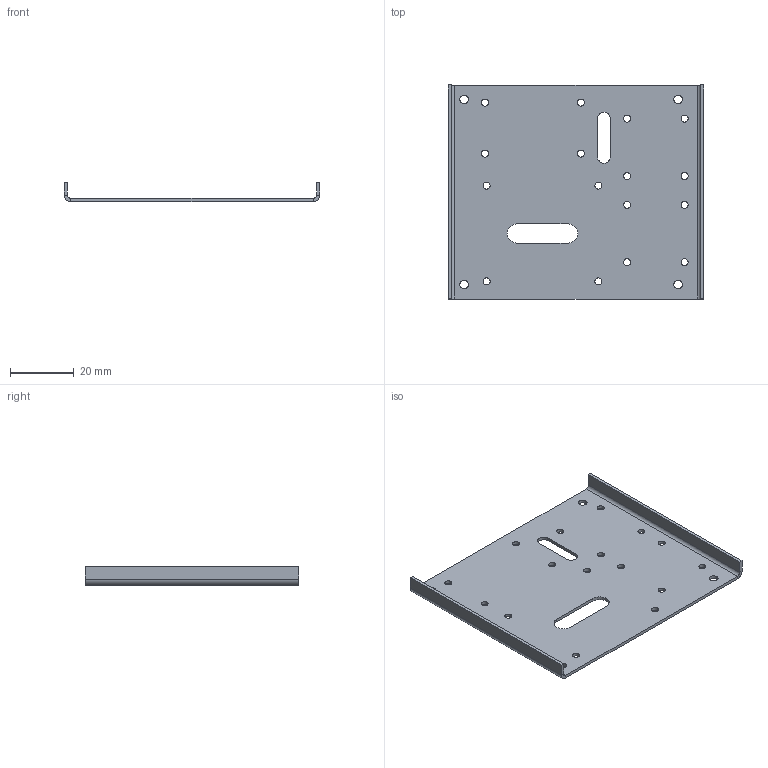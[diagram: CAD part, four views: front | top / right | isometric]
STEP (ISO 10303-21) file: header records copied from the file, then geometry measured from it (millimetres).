
FILE_DESCRIPTION(/* description */ (''),/* implementation_level */ '2;1');
FILE_NAME(/* name */ 'PDB-03-301_Main_Equipment_Deck_R01.step',/* time_stamp */ '2026-11-24T01:50:39+05:00',/* author */ (''),/* organization */ (''),/* preprocessor_version */ 'ST-DEVELOPER v20.2',/* originating_system */ 'Autodesk Translation Framework v15.17.0.0',/* authorisation */ '');
FILE_SCHEMA (('AUTOMOTIVE_DESIGN { 1 0 10303 214 3 1 1 }'));
Length unit declared in the file: centimetre
Products named in the file (1): 2026-11-24-01-50-38-947
Bounding box: 80 x 67 x 6 mm (x, y, z)
Volume: 5675.2 mm3; surface area: 11893.7 mm2
Topology: 1 solids, 1 shells, 50 faces, 128 edges, 80 vertices
Faces by surface type: cylinder 28, plane 22
Full cylindrical faces by diameter (mm): 2.2 x16, 2.7 x4
Entity records: 1641 total; most frequent: DIRECTION 286, CARTESIAN_POINT 259, ORIENTED_EDGE 256, EDGE_CURVE 128, AXIS2_PLACEMENT_3D 107, EDGE_LOOP 94, VERTEX_POINT 80, LINE 72
